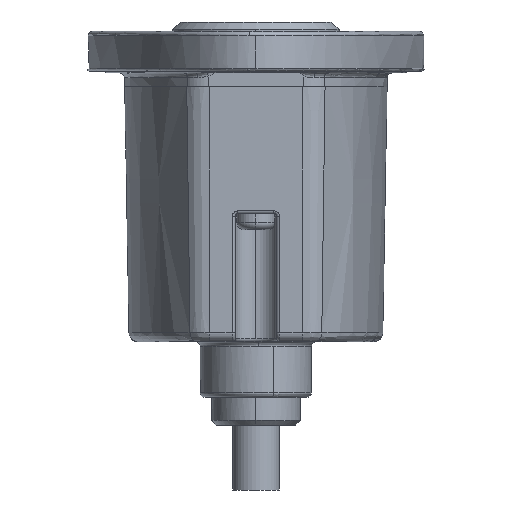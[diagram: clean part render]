
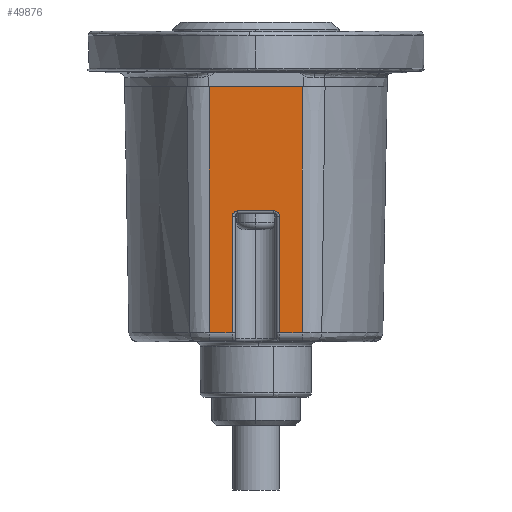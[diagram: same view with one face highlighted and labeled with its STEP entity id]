
A CAD part, left-side view. The second image highlights one B-rep face of the part: STEP entity #49876.
In plain terms, the highlighted planar face has unit normal (-1, 0, -0.018).
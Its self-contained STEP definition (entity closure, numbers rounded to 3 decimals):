
#21 = CARTESIAN_POINT ( 'NONE',  ( -34.723, -1.95, -15.885 ) ) ;
#297 = ORIENTED_EDGE ( 'NONE', *, *, #41015, .T. ) ;
#1167 = VERTEX_POINT ( 'NONE', #15630 ) ;
#1386 = CARTESIAN_POINT ( 'NONE',  ( -34.712, 2.55, -16.485 ) ) ;
#2152 = CARTESIAN_POINT ( 'NONE',  ( -34.716, 2.515, -16.283 ) ) ;
#2463 = CARTESIAN_POINT ( 'NONE',  ( -34.712, 2.55, -16.485 ) ) ;
#3023 = VERTEX_POINT ( 'NONE', #21 ) ;
#3072 = CARTESIAN_POINT ( 'NONE',  ( -34.957, 5.014, -2.48 ) ) ;
#3122 = VECTOR ( 'NONE', #21332, 1000. ) ;
#3343 = EDGE_CURVE ( 'NONE', #21307, #3023, #19223, .T. ) ;
#3495 = CARTESIAN_POINT ( 'NONE',  ( -34.738, -5.014, -15. ) ) ;
#4030 = CARTESIAN_POINT ( 'NONE',  ( -34.493, -5.014, -29.017 ) ) ;
#4211 = VERTEX_POINT ( 'NONE', #2463 ) ;
#4370 = B_SPLINE_CURVE_WITH_KNOTS ( 'NONE', 3,
 ( #39925, #48920, #18397, #21942 ),
 .UNSPECIFIED., .F., .F.,
 ( 4, 4 ),
 ( 0., 1. ),
 .UNSPECIFIED. ) ;
#5026 = CARTESIAN_POINT ( 'NONE',  ( -34.723, -1.95, -15.885 ) ) ;
#6227 = ORIENTED_EDGE ( 'NONE', *, *, #57896, .T. ) ;
#6505 = VECTOR ( 'NONE', #31535, 1000. ) ;
#6570 = VERTEX_POINT ( 'NONE', #14713 ) ;
#7545 = EDGE_CURVE ( 'NONE', #3023, #6570, #45017, .T. ) ;
#9710 = CARTESIAN_POINT ( 'NONE',  ( -34.718, -2.442, -16.137 ) ) ;
#10984 = CARTESIAN_POINT ( 'NONE',  ( -34.722, 2.209, -15.944 ) ) ;
#11015 = EDGE_CURVE ( 'NONE', #12647, #4211, #17745, .T. ) ;
#11576 = ORIENTED_EDGE ( 'NONE', *, *, #53795, .T. ) ;
#11994 = DIRECTION ( 'NONE',  ( 0., 1., 0. ) ) ;
#12647 = VERTEX_POINT ( 'NONE', #37197 ) ;
#13963 = ORIENTED_EDGE ( 'NONE', *, *, #11015, .T. ) ;
#14713 = CARTESIAN_POINT ( 'NONE',  ( -34.712, -2.55, -16.485 ) ) ;
#15007 = AXIS2_PLACEMENT_3D ( 'NONE', #3495, #43752, #20915 ) ;
#15285 = CARTESIAN_POINT ( 'NONE',  ( -34.722, 2.1, -15.899 ) ) ;
#15630 = CARTESIAN_POINT ( 'NONE',  ( -34.957, -5.014, -2.48 ) ) ;
#15657 = CARTESIAN_POINT ( 'NONE',  ( -34.715, 2.521, -16.3 ) ) ;
#15698 = EDGE_CURVE ( 'NONE', #26461, #29632, #25177, .T. ) ;
#16126 = ORIENTED_EDGE ( 'NONE', *, *, #7545, .T. ) ;
#16288 = EDGE_CURVE ( 'NONE', #28298, #41631, #4370, .T. ) ;
#17010 = PLANE ( 'NONE',  #15007 ) ;
#17745 = LINE ( 'NONE', #49516, #6505 ) ;
#18397 = CARTESIAN_POINT ( 'NONE',  ( -34.802, 5.014, -11.326 ) ) ;
#18692 = CARTESIAN_POINT ( 'NONE',  ( -34.717, -2.473, -16.19 ) ) ;
#18866 = VECTOR ( 'NONE', #55289, 1000. ) ;
#18981 = CARTESIAN_POINT ( 'NONE',  ( -34.713, 2.55, -16.447 ) ) ;
#19077 = CARTESIAN_POINT ( 'NONE',  ( -34.721, -2.316, -16.003 ) ) ;
#19223 = LINE ( 'NONE', #48139, #3122 ) ;
#19572 = CARTESIAN_POINT ( 'NONE',  ( -34.72, 2.345, -16.032 ) ) ;
#20278 = EDGE_LOOP ( 'NONE', ( #52679, #29245, #11576, #43286, #25156, #6227, #13963, #297, #26097, #16126 ) ) ;
#20308 = LINE ( 'NONE', #51019, #24542 ) ;
#20528 = CARTESIAN_POINT ( 'NONE',  ( -34.493, -2.55, -29.017 ) ) ;
#20915 = DIRECTION ( 'NONE',  ( -0.017, 0., 1. ) ) ;
#20993 = EDGE_CURVE ( 'NONE', #6570, #26461, #32071, .T. ) ;
#21056 = EDGE_CURVE ( 'NONE', #1167, #41631, #36248, .T. ) ;
#21307 = VERTEX_POINT ( 'NONE', #56991 ) ;
#21332 = DIRECTION ( 'NONE',  ( 0., -1., 0. ) ) ;
#21942 = CARTESIAN_POINT ( 'NONE',  ( -34.957, 5.014, -2.48 ) ) ;
#23403 = CARTESIAN_POINT ( 'NONE',  ( -34.714, -2.55, -16.409 ) ) ;
#23597 = CARTESIAN_POINT ( 'NONE',  ( -34.712, -2.55, -16.485 ) ) ;
#23981 = CARTESIAN_POINT ( 'NONE',  ( -34.493, -5.014, -29.017 ) ) ;
#24542 = VECTOR ( 'NONE', #30076, 1000. ) ;
#25156 = ORIENTED_EDGE ( 'NONE', *, *, #16288, .F. ) ;
#25177 = LINE ( 'NONE', #23981, #18866 ) ;
#26097 = ORIENTED_EDGE ( 'NONE', *, *, #3343, .T. ) ;
#26461 = VERTEX_POINT ( 'NONE', #20528 ) ;
#26558 = CARTESIAN_POINT ( 'NONE',  ( -34.723, -1.988, -15.885 ) ) ;
#28004 = CARTESIAN_POINT ( 'NONE',  ( -34.714, 2.545, -16.391 ) ) ;
#28100 = CARTESIAN_POINT ( 'NONE',  ( -34.717, -2.492, -16.226 ) ) ;
#28298 = VERTEX_POINT ( 'NONE', #53192 ) ;
#28775 = CARTESIAN_POINT ( 'NONE',  ( -34.721, 2.245, -15.963 ) ) ;
#29245 = ORIENTED_EDGE ( 'NONE', *, *, #15698, .T. ) ;
#29406 = CARTESIAN_POINT ( 'NONE',  ( -34.957, -5.014, -2.48 ) ) ;
#29632 = VERTEX_POINT ( 'NONE', #4030 ) ;
#30076 = DIRECTION ( 'NONE',  ( 0., -1., 0. ) ) ;
#31535 = DIRECTION ( 'NONE',  ( -0.017, 0., 1. ) ) ;
#32071 = LINE ( 'NONE', #46196, #43928 ) ;
#32871 = CARTESIAN_POINT ( 'NONE',  ( -34.723, 2.027, -15.885 ) ) ;
#33071 = CARTESIAN_POINT ( 'NONE',  ( -34.723, 1.95, -15.885 ) ) ;
#33163 = VECTOR ( 'NONE', #53574, 1000. ) ;
#35532 = VECTOR ( 'NONE', #11994, 1000. ) ;
#36248 = LINE ( 'NONE', #29406, #35532 ) ;
#37197 = CARTESIAN_POINT ( 'NONE',  ( -34.493, 2.55, -29.017 ) ) ;
#39925 = CARTESIAN_POINT ( 'NONE',  ( -34.493, 5.014, -29.017 ) ) ;
#41015 = EDGE_CURVE ( 'NONE', #4211, #21307, #54434, .T. ) ;
#41631 = VERTEX_POINT ( 'NONE', #3072 ) ;
#41836 = CARTESIAN_POINT ( 'NONE',  ( -34.717, 2.478, -16.188 ) ) ;
#42217 = CARTESIAN_POINT ( 'NONE',  ( -34.721, 2.298, -15.993 ) ) ;
#42466 = DIRECTION ( 'NONE',  ( 0.017, 0., -1. ) ) ;
#43286 = ORIENTED_EDGE ( 'NONE', *, *, #21056, .T. ) ;
#43752 = DIRECTION ( 'NONE',  ( -1., 0., -0.017 ) ) ;
#43928 = VECTOR ( 'NONE', #42466, 1000. ) ;
#45017 = B_SPLINE_CURVE_WITH_KNOTS ( 'NONE', 3,
 ( #5026, #26558, #53927, #53530, #45074, #58071, #50573, #19077, #46038, #9710, #18692, #28100, #50384, #45464, #23403, #23597 ),
 .UNSPECIFIED., .F., .F.,
 ( 4, 1, 2, 2, 2, 1, 2, 2, 4 ),
 ( 0., 0.125, 0.187, 0.25, 0.5, 0.625, 0.687, 0.75, 1. ),
 .UNSPECIFIED. ) ;
#45074 = CARTESIAN_POINT ( 'NONE',  ( -34.722, -2.135, -15.914 ) ) ;
#45464 = CARTESIAN_POINT ( 'NONE',  ( -34.715, -2.536, -16.335 ) ) ;
#45951 = CARTESIAN_POINT ( 'NONE',  ( -34.715, 2.532, -16.336 ) ) ;
#46038 = CARTESIAN_POINT ( 'NONE',  ( -34.719, -2.403, -16.09 ) ) ;
#46196 = CARTESIAN_POINT ( 'NONE',  ( -34.738, -2.55, -15. ) ) ;
#47862 = LINE ( 'NONE', #49067, #33163 ) ;
#48139 = CARTESIAN_POINT ( 'NONE',  ( -34.723, -5.014, -15.885 ) ) ;
#48920 = CARTESIAN_POINT ( 'NONE',  ( -34.648, 5.014, -20.172 ) ) ;
#49067 = CARTESIAN_POINT ( 'NONE',  ( -34.738, -5.014, -15. ) ) ;
#49516 = CARTESIAN_POINT ( 'NONE',  ( -34.738, 2.55, -15. ) ) ;
#49876 = ADVANCED_FACE ( 'NONE', ( #53746 ), #17010, .T. ) ;
#50384 = CARTESIAN_POINT ( 'NONE',  ( -34.716, -2.501, -16.247 ) ) ;
#50573 = CARTESIAN_POINT ( 'NONE',  ( -34.721, -2.247, -15.957 ) ) ;
#51019 = CARTESIAN_POINT ( 'NONE',  ( -34.493, -5.014, -29.017 ) ) ;
#52679 = ORIENTED_EDGE ( 'NONE', *, *, #20993, .T. ) ;
#53192 = CARTESIAN_POINT ( 'NONE',  ( -34.493, 5.014, -29.017 ) ) ;
#53530 = CARTESIAN_POINT ( 'NONE',  ( -34.722, -2.099, -15.904 ) ) ;
#53574 = DIRECTION ( 'NONE',  ( -0.017, 0., 1. ) ) ;
#53746 = FACE_OUTER_BOUND ( 'NONE', #20278, .T. ) ;
#53795 = EDGE_CURVE ( 'NONE', #29632, #1167, #47862, .T. ) ;
#53927 = CARTESIAN_POINT ( 'NONE',  ( -34.723, -2.044, -15.891 ) ) ;
#54434 = B_SPLINE_CURVE_WITH_KNOTS ( 'NONE', 3,
 ( #1386, #18981, #28004, #45951, #15657, #2152, #41836, #55581, #19572, #42217, #28775, #10984, #55775, #15285, #32871, #33071 ),
 .UNSPECIFIED., .F., .F.,
 ( 4, 1, 2, 2, 2, 1, 2, 2, 4 ),
 ( 0., 0.125, 0.187, 0.25, 0.5, 0.625, 0.687, 0.75, 1. ),
 .UNSPECIFIED. ) ;
#55289 = DIRECTION ( 'NONE',  ( 0., -1., 0. ) ) ;
#55581 = CARTESIAN_POINT ( 'NONE',  ( -34.719, 2.432, -16.119 ) ) ;
#55775 = CARTESIAN_POINT ( 'NONE',  ( -34.722, 2.188, -15.934 ) ) ;
#56991 = CARTESIAN_POINT ( 'NONE',  ( -34.723, 1.95, -15.885 ) ) ;
#57896 = EDGE_CURVE ( 'NONE', #28298, #12647, #20308, .T. ) ;
#58071 = CARTESIAN_POINT ( 'NONE',  ( -34.722, -2.152, -15.92 ) ) ;
